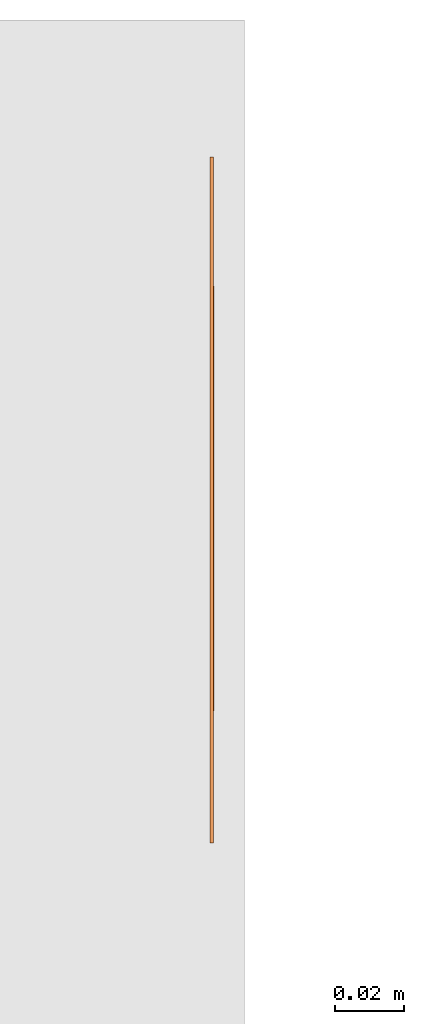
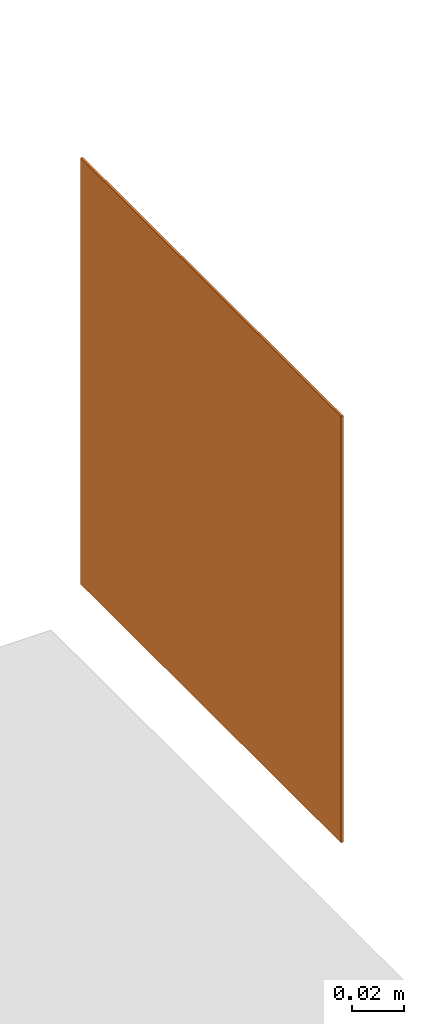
# One storey, part 73 of 119: 1 proxy.
"""IFC2X3 building model written with IfcOpenShell, lengths in metres."""

from ifc_helpers import new_model, entity, si_unit, converted_unit, derived_unit, direction, frame, origin, origin_2d_with_axis, place, context, subcontext, project, spatial, polyline, rectangle, outline, extrude, source, transform, mapped, material, material_list, type_object, type_shapes, element, save


model = new_model("IFC2X3")

# Units and contexts
model_context = context("Model", 3, precision=1e-05, world=origin(), true_north=direction((6.12303176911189e-17, 1.0)))
body_context = subcontext(model_context, "Body", "Model", "MODEL_VIEW")
ifc_project = project(units=[si_unit("LENGTHUNIT", "METRE"), si_unit("AREAUNIT", "SQUARE_METRE"), si_unit("VOLUMEUNIT", "CUBIC_METRE"), converted_unit("PLANEANGLEUNIT", "DEGREE", entity("IfcRatioMeasure", 0.0174532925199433), si_unit("PLANEANGLEUNIT", "RADIAN"), dimensions=[0, 0, 0, 0, 0, 0, 0]), si_unit("MASSUNIT", "GRAM", prefix="KILO"), derived_unit("MASSDENSITYUNIT", [(si_unit("MASSUNIT", "GRAM", prefix="KILO"), 1), (si_unit("LENGTHUNIT", "METRE"), -3)]), derived_unit("MOMENTOFINERTIAUNIT", [(si_unit("LENGTHUNIT", "METRE"), 4)]), si_unit("TIMEUNIT", "SECOND"), si_unit("FREQUENCYUNIT", "HERTZ"), si_unit("THERMODYNAMICTEMPERATUREUNIT", "DEGREE_CELSIUS"), derived_unit("THERMALTRANSMITTANCEUNIT", [(si_unit("MASSUNIT", "GRAM", prefix="KILO"), 1), (si_unit("THERMODYNAMICTEMPERATUREUNIT", "KELVIN"), -1), (si_unit("TIMEUNIT", "SECOND"), -3)]), derived_unit("VOLUMETRICFLOWRATEUNIT", [(si_unit("LENGTHUNIT", "METRE"), 3), (si_unit("TIMEUNIT", "SECOND"), -1)]), si_unit("ELECTRICCURRENTUNIT", "AMPERE"), si_unit("ELECTRICVOLTAGEUNIT", "VOLT"), si_unit("POWERUNIT", "WATT"), si_unit("FORCEUNIT", "NEWTON", prefix="KILO"), si_unit("ILLUMINANCEUNIT", "LUX"), si_unit("LUMINOUSFLUXUNIT", "LUMEN"), si_unit("LUMINOUSINTENSITYUNIT", "CANDELA"), derived_unit("USERDEFINED", [(si_unit("MASSUNIT", "GRAM", prefix="KILO"), -1), (si_unit("LENGTHUNIT", "METRE"), -2), (si_unit("TIMEUNIT", "SECOND"), 3), (si_unit("LUMINOUSFLUXUNIT", "LUMEN"), 1)]), derived_unit("LINEARVELOCITYUNIT", [(si_unit("LENGTHUNIT", "METRE"), 1), (si_unit("TIMEUNIT", "SECOND"), -1)]), si_unit("PRESSUREUNIT", "PASCAL"), derived_unit("USERDEFINED", [(si_unit("LENGTHUNIT", "METRE"), -2), (si_unit("MASSUNIT", "GRAM", prefix="KILO"), 1), (si_unit("TIMEUNIT", "SECOND"), -2)]), derived_unit("LINEARFORCEUNIT", [(si_unit("MASSUNIT", "GRAM", prefix="KILO"), 1), (si_unit("LENGTHUNIT", "METRE"), 1), (si_unit("TIMEUNIT", "SECOND"), -2), (si_unit("LENGTHUNIT", "METRE"), -1)]), derived_unit("PLANARFORCEUNIT", [(si_unit("MASSUNIT", "GRAM", prefix="KILO"), 1), (si_unit("LENGTHUNIT", "METRE"), 1), (si_unit("TIMEUNIT", "SECOND"), -2), (si_unit("LENGTHUNIT", "METRE"), -2)])], contexts=[model_context])

# Site, building, storey
site_placement = place(None, origin())
site = spatial("IfcSite", under=ifc_project, at=site_placement, Name="Default", CompositionType="ELEMENT")
building_placement = place(site_placement, origin())
building = spatial("IfcBuilding", under=site, at=building_placement, CompositionType="ELEMENT")
storey_placement = place(building_placement, origin())
storey = spatial("IfcBuildingStorey", under=building, at=storey_placement, Name="PAV. 01 - TÉRREO", CompositionType="ELEMENT", Elevation=0.0)

# Proxy
ifc_material_1 = material(Name="Plastico branco")
ifc_material_2 = material(Name="Plastico vermelho")
ifc_material_list = material_list([ifc_material_1, ifc_material_2])
building_element_proxy_type = type_object("IfcBuildingElementProxyType", Name="Sinalização de equipamentos - E07 - Abrigo de mangueira e hidrante:Distância 08m", PredefinedType="NOTDEFINED", material=ifc_material_1)
shared_shape = source(origin(), body_context, "Body", "SweptSolid", [
    extrude(outline(polyline([(-0.00690786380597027, -0.0122995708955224), (0.00711825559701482, -0.0122995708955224), (0.00711825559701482, -0.00743718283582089), (0.00262989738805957, -0.00743718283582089), (0.00596944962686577, 0.0271739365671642), (-0.00581249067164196, 0.0271739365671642), (-0.00320763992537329, -0.00743718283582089), (-0.00690786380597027, -0.00743718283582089), (-0.00690786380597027, -0.0122995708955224)])), frame((0.0421885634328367, -0.0011, 1.96326280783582), z_axis=(0.0, 1.0, 0.0), x_axis=(0.0, 0.0, -1.0)), (0.0, 0.0, 1.0), 0.0011),
    extrude(outline(polyline([(-0.0100749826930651, 0.0564373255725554), (0.000130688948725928, 0.0564373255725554), (0.000130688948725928, 0.0615935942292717), (0.0111390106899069, 0.0603672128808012), (0.0215236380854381, 0.0569157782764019), (0.0310659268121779, 0.0514698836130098), (0.039547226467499, 0.044260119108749), (0.0467232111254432, 0.0355044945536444), (0.0522652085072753, 0.0253796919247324), (0.0558272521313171, 0.0140539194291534), (0.0570633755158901, 0.00169538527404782), (0.0559544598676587, -0.0103529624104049), (0.0527167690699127, -0.021677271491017), (0.0475402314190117, -0.0320063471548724), (0.0406147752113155, -0.0410689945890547), (0.0321303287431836, -0.0485940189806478), (0.0222768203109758, -0.054310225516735), (0.0112441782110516, -0.0579464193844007), (-0.000777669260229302, -0.0592314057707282), (-0.0112144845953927, -0.0581339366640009), (-0.0207847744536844, -0.0549992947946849), (-0.0293267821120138, -0.0500696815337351), (-0.0366787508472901, -0.0435872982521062), (-0.0426789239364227, -0.0357943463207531), (-0.0471655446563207, -0.0269330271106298), (-0.0499768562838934, -0.0172455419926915), (-0.0509511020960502, -0.00697409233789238), (-0.0503267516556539, 0.00214397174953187), (-0.0485509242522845, 0.0101046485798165), (-0.0457766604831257, 0.0170464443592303), (-0.042157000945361, 0.0231078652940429), (-0.0378449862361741, 0.0284274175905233), (-0.0329915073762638, 0.0331411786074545), (-0.0276526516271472, 0.0372781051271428), (-0.0217544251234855, 0.0407201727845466), (-0.0152134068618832, 0.0433387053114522), (-0.00794617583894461, 0.0450050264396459), (0.000130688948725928, 0.0455904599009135), (0.0081536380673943, 0.04465447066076), (0.0157133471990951, 0.0420982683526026), (0.0226512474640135, 0.0380908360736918), (0.0288087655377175, 0.0328011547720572), (0.034008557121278, 0.0263891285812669), (0.0380116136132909, 0.0189848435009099), (0.0405662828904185, 0.0107122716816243), (0.041420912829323, 0.00169538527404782), (0.0406481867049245, -0.00714065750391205), (0.0383124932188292, -0.015453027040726), (0.0345521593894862, -0.0230422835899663), (0.0295055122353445, -0.0297089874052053), (0.023310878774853, -0.0352536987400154), (0.0161065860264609, -0.0394769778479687), (0.0080309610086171, -0.0421793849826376), (-0.000777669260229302, -0.043161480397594), (-0.00799025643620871, -0.0423890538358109), (-0.014601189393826, -0.0402096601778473), (-0.0204989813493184, -0.0367909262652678), (-0.0255721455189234, -0.0323004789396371), (-0.0297091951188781, -0.0269059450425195), (-0.03279864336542, -0.0207749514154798), (-0.0347290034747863, -0.0140751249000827), (-0.0353887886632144, -0.00697409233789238), (-0.0349404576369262, -0.000650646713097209), (-0.0336953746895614, 0.00486808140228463), (-0.0317594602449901, 0.00967841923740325), (-0.0292386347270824, 0.0138766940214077), (-0.0262388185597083, 0.0175592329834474), (-0.0228644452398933, 0.0208206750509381), (-0.0191543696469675, 0.02368119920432), (-0.015057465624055, 0.0260588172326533), (-0.0105160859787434, 0.02786413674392), (-0.00547258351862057, 0.0290077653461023), (0.000130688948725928, 0.0294003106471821), (0.00520279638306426, 0.0288165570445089), (0.00998368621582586, 0.027208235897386), (0.0143729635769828, 0.0246820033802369), (0.018270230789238, 0.0213445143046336), (0.0215632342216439, 0.0172966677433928), (0.0241007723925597, 0.012620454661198), (0.02572365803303, 0.00739398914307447), (0.0262727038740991, 0.00169538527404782), (0.0257957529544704, -0.0039920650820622), (0.0243118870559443, -0.00934613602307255), (0.0219096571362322, -0.0142381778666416), (0.0186776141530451, -0.0185395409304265), (0.0147043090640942, -0.0221215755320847), (0.0100782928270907, -0.0248556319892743), (0.00488811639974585, -0.0266130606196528), (-0.000777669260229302, -0.0272652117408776), (-0.00480591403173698, -0.0268185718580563), (-0.00849506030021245, -0.0255870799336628), (-0.011783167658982, -0.0236646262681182), (-0.014608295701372, -0.0211451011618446), (-0.0169085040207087, -0.0181223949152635), (-0.0186218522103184, -0.0146903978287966), (-0.0196863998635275, -0.0109430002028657), (-0.0200402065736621, -0.00697409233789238), (-0.0197070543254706, -0.00307612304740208), (-0.0188559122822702, 0.000297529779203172), (-0.0175578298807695, 0.00320533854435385), (-0.0158838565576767, 0.00570577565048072), (-0.0139050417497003, 0.00785731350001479), (-0.0116800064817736, 0.00970541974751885), (-0.00919827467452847, 0.0112232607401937), (-0.00642549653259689, 0.0123590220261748), (-0.00332729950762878, 0.013060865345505), (0.000130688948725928, 0.013276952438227), (0.00313917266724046, 0.0124353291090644), (0.00564156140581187, 0.0111582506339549), (0.00763785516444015, 0.00944571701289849), (0.0091280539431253, 0.00729772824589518), (0.0101121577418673, 0.00471428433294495), (0.0105901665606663, 0.00169538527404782), (0.0104396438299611, -0.00075805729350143), (0.00985235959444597, -0.00307766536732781), (0.0088652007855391, -0.00520719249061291), (0.00751505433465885, -0.00709039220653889), (0.00583880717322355, -0.00867101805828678), (0.00387334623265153, -0.00989282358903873), (0.00165555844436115, -0.0106995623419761), (-0.000777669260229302, -0.0110349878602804), (-0.00167408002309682, -0.0108859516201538), (-0.00245613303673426, -0.0105863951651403), (-0.00312066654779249, -0.0101578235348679), (-0.00366451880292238, -0.00962174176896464), (-0.00408452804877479, -0.00899965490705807), (-0.00437753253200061, -0.00831306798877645), (-0.00454037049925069, -0.00758348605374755), (-0.00456988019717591, -0.00683241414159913), (-0.00446289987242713, -0.00608135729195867), (-0.00421626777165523, -0.00535182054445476), (-0.00382682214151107, -0.00466530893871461), (-0.00329140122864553, -0.00404332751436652), (-0.00260684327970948, -0.00350738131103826), (-0.00176998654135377, -0.00307897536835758), (-0.000777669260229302, -0.00277961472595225), (-0.000777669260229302, 0.00518187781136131), (-0.00423070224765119, 0.0045419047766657), (-0.00707907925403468, 0.00334752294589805), (-0.00932280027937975, 0.00159873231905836), (-0.0109618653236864, -0.00070446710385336), (-0.0119962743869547, -0.00356207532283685), (-0.0124260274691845, -0.00697409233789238), (-0.012188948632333, -0.00934499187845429), (-0.0115283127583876, -0.0115788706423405), (-0.0104817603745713, -0.0136199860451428), (-0.00908693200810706, -0.0154125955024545), (-0.00738146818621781, -0.0169009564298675), (-0.00540300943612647, -0.018029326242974), (-0.003189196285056, -0.018741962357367), (-0.000777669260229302, -0.0189831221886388), (0.00328262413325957, -0.0185300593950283), (0.00700496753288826, -0.0172840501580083), (0.0103256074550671, -0.0153370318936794), (0.0131807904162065, -0.0127809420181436), (0.0155067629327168, -0.00970771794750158), (0.0172397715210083, -0.00620929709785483), (0.0183160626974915, -0.00237761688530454), (0.0186718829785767, 0.00169538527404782), (0.0182922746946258, 0.00574957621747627), (0.0171479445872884, 0.00946273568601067), (0.0153522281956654, 0.0127723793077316), (0.0130184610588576, 0.0156160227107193), (0.0102540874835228, 0.0179361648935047), (0.00713791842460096, 0.0196995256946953), (0.0037400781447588, 0.0208801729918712), (0.000130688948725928, 0.021452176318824), (-0.004291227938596, 0.0211836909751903), (-0.00827718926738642, 0.0203187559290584), (-0.0118720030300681, 0.0189282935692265), (-0.0151204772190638, 0.0170832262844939), (-0.0180674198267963, 0.014854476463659), (-0.0207525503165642, 0.012307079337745), (-0.0231453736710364, 0.00942483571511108), (-0.0251642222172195, 0.00613234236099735), (-0.0267262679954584, 0.00235285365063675), (-0.027748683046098, -0.00199037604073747), (-0.028148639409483, -0.00697409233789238), (-0.0275827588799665, -0.0125340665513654), (-0.0260239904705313, -0.0177709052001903), (-0.0235608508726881, -0.0225540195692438), (-0.0202818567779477, -0.026752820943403), (-0.0162755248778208, -0.0302367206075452), (-0.0116303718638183, -0.0328751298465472), (-0.00643491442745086, -0.0345374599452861), (-0.000777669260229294, -0.0350931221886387), (0.00649225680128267, -0.0343265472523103), (0.0131661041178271, -0.0321374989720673), (0.0191288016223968, -0.028689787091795), (0.0242652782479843, -0.0241472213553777), (0.0284604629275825, -0.0186736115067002), (0.031599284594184, -0.0124327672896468), (0.0335666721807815, -0.00558849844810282), (0.0342475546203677, 0.00169538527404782), (0.0334944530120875, 0.00908531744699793), (0.0313514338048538, 0.0158549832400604), (0.0280255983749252, 0.0219041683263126), (0.0237240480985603, 0.0271326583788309), (0.0186435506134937, 0.0314351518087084), (0.0129304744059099, 0.0346815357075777), (0.00671584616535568, 0.0367341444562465), (0.00013068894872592, 0.0374553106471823), (-0.00671911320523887, 0.0369809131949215), (-0.012885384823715, 0.0355878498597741), (-0.0184385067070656, 0.0333854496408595), (-0.0234488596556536, 0.030483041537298), (-0.0279868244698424, 0.0269899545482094), (-0.0321148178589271, 0.0230064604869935), (-0.0357853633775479, 0.0185078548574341), (-0.038870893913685, 0.0133783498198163), (-0.0412420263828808, 0.00750009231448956), (-0.0427693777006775, 0.000755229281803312), (-0.0433235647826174, -0.00697409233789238), (-0.0424899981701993, -0.0156746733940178), (-0.0401006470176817, -0.0238790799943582), (-0.0362927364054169, -0.0313822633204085), (-0.0312034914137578, -0.0379791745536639), (-0.0249701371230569, -0.0434647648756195), (-0.0177298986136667, -0.0476339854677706), (-0.00962000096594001, -0.0502817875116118), (-0.000777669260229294, -0.0512031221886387), (0.00967260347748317, -0.0500981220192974), (0.0192654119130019, -0.046948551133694), (0.0278354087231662, -0.0419899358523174), (0.0352172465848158, -0.0354578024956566), (0.0412455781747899, -0.0275876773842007), (0.045755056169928, -0.0186150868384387), (0.0485803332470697, -0.0087755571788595), (0.0495560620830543, 0.00169538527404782), (0.0484795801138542, 0.0124199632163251), (0.0453849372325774, 0.0222475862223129), (0.0405724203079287, 0.0310323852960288), (0.0343423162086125, 0.0386284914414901), (0.0269799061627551, 0.0448826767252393), (0.0186972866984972, 0.0496058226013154), (0.00968427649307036, 0.052597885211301), (0.000130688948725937, 0.0536588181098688), (-0.00918927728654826, 0.0529865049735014), (-0.0175754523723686, 0.0510666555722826), (-0.0251240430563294, 0.0480477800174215), (-0.0319312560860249, 0.0440783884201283), (-0.0380932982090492, 0.0393069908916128), (-0.0436955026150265, 0.0338698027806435), (-0.048673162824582, 0.0277333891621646), (-0.0528522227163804, 0.0207406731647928), (-0.0560561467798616, 0.012731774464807), (-0.0581083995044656, 0.00354681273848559), (-0.0588324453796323, -0.00697409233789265), (-0.0577069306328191, -0.018861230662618), (-0.0544553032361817, -0.0300729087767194), (-0.0492647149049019, -0.0403288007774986), (-0.0423223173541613, -0.0493485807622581), (-0.033815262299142, -0.0568519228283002), (-0.0239307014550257, -0.0625585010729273), (-0.0128557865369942, -0.0661879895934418), (-0.000777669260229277, -0.0674600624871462), (0.0128900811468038, -0.0660204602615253), (0.0254375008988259, -0.0619064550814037), (0.0366482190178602, -0.0554259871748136), (0.0463058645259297, -0.0468869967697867), (0.0541940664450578, -0.0365974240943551), (0.0600964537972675, -0.0248652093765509), (0.063796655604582, -0.0119982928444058), (0.0650783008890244, 0.00169538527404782), (0.0636910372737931, 0.015779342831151), (0.0597178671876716, 0.0287040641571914), (0.0534946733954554, 0.040257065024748), (0.0453573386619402, 0.0502258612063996), (0.0356383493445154, 0.0583943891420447), (0.0246536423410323, 0.0645291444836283), (0.0127141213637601, 0.0683913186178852), (0.000130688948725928, 0.0697421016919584), (0.000130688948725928, 0.074791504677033), (-0.0100749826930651, 0.074791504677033), (-0.0100749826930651, 0.0564373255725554)])), frame((0.00353703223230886, -0.00109999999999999, 1.89754319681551), z_axis=(0.0, 1.0, 0.0), x_axis=(-1.0, 0.0, 0.0)), (0.0, 0.0, 1.0), 0.0011),
    extrude(rectangle(XDim=0.001, YDim=0.179, at=origin_2d_with_axis()), frame((0.0, -0.0005, 1.8105), z_axis=(0.0, 0.0, 1.0), x_axis=(0.0, 1.0, 0.0)), (0.0, 0.0, 1.0), 0.179000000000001),
    extrude(outline(polyline([(-0.100000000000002, -0.1), (0.100000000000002, -0.1), (0.100000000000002, 0.1), (-0.100000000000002, 0.1), (-0.100000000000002, -0.1)]), holes=[polyline([(-0.0895000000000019, -0.0895000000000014), (-0.0895000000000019, 0.0894999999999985), (0.0894999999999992, 0.0894999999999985), (0.0894999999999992, -0.0895000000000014), (-0.0895000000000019, -0.0895000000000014)])]), frame((0.0, -0.001, 1.9), z_axis=(0.0, 1.0, 0.0), x_axis=(0.0, 0.0, -1.0)), (0.0, 0.0, 1.0), 0.001),
])
type_shapes(building_element_proxy_type, [shared_shape])
proxy_placement = place(storey_placement, frame((18.7740605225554, 29.4971958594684, 0.0), z_axis=(0.0, 0.0, 1.0), x_axis=(0.0, 1.0, 0.0)))
element("IfcBuildingElementProxy", 1, at=proxy_placement, inside=storey, type_object=building_element_proxy_type, material=ifc_material_list, Name="Sinalização de equipamentos - E07 - Abrigo de mangueira e hidrante:Distância 08m", ObjectType="Sinalização de equipamentos - E07 - Abrigo de mangueira e hidrante:Distância 08m", context=body_context, shape_type="MappedRepresentation", body=[
    mapped(shared_shape, transform((0.0, 0.0, 0.0), scale=1.0)),
])

save(model, "model.ifc")
